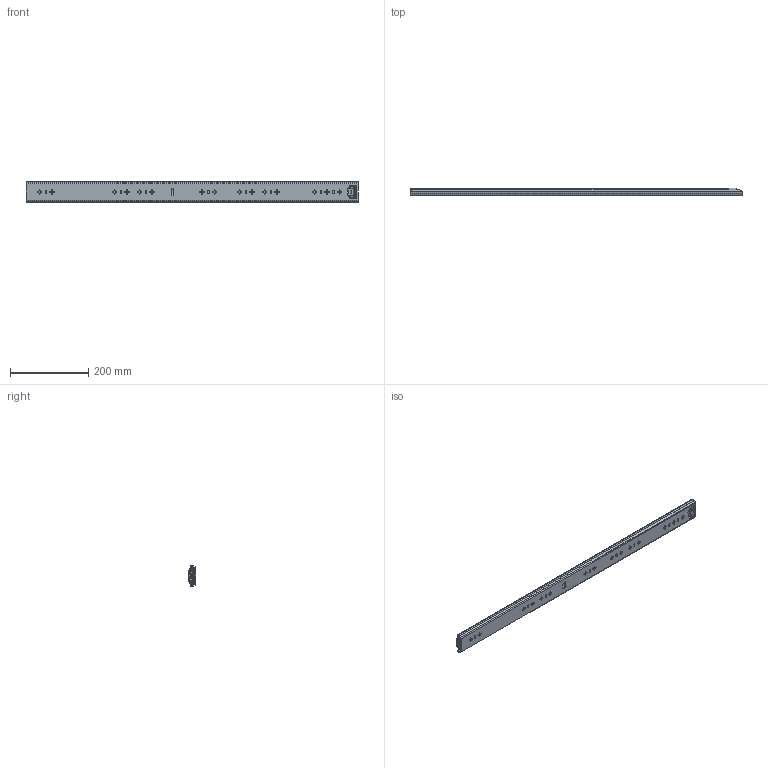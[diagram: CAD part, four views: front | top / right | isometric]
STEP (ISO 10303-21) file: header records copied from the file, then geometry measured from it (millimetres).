
FILE_DESCRIPTION((''),'2;1');
FILE_NAME('1053-02-34_ASM','2022-08-16T',('jishu015'),(''),'PRO/ENGINEER BY PARAMETRIC TECHNOLOGY CORPORATION, 2010280','PRO/ENGINEER BY PARAMETRIC TECHNOLOGY CORPORATION, 2010280','');
FILE_SCHEMA(('CONFIG_CONTROL_DESIGN'));
Products named in the file (16): 1053-02-32WAIKE; 1053WEIJIAO_________; 53-WAIKEJIAO-34; 1053-02-34WAIKE_ASM; 1053ZHUTIAO-175_________; 53-5-6GANZHU_________; 1053ZHUTIAO-175MM__________ASM; 1053-02-18ZHONGGUI_________; 53ZHIDIJIAO_________; 1053-02-18ZHONGGUI__________ASM; 1053XIAOZHUJIA-14GE_________; 1053XIAOZHUJIA-14GE__________ASM; 1053-02-18NEIGUI_________; 53BACHA________; 1053-02-18NEIGUI__________ASM; 1053-02-34_ASM
Assembly tree (94 placements, depth 3):
  1053-02-34_ASM
    1053-02-34WAIKE_ASM
      1053-02-32WAIKE
      1053WEIJIAO_________
      53-WAIKEJIAO-34
    1053ZHUTIAO-175MM__________ASM  x2
      1053ZHUTIAO-175_________
      53-5-6GANZHU_________
    1053-02-18ZHONGGUI__________ASM
      1053-02-18ZHONGGUI_________
      53ZHIDIJIAO_________
    1053XIAOZHUJIA-14GE__________ASM
      1053XIAOZHUJIA-14GE_________
      53-5-6GANZHU_________  x64
    1053-02-18NEIGUI__________ASM
      1053-02-18NEIGUI_________
      53BACHA________
Bounding box: 850 x 18.7 x 53 mm (x, y, z)
Volume: 322589 mm3; surface area: 372542.8 mm2
Topology: 104 solids, 110 shells, 2728 faces, 7909 edges, 4937 vertices
Faces by surface type: cylinder 1204, plane 1056, sphere 206, cone 124, bspline 104, torus 34
Entity records: 87503 total; most frequent: CARTESIAN_POINT 21291, ORIENTED_EDGE 13942, DIRECTION 13760, EDGE_CURVE 7043, AXIS2_PLACEMENT_3D 4824, VERTEX_POINT 4555, VECTOR 4112, LINE 4112
